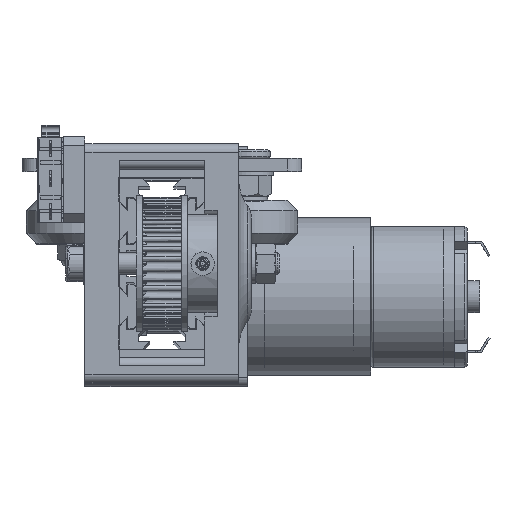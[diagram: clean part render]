
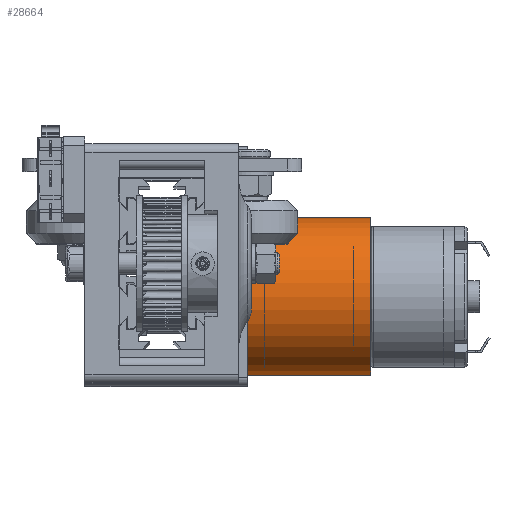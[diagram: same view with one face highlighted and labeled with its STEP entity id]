
A CAD part, top view. The second image highlights one B-rep face of the part: STEP entity #28664.
In plain terms, the highlighted cylindrical face has radius 18.5 mm (diameter 37 mm), a full revolution.
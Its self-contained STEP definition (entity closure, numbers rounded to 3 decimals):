
#1684=CYLINDRICAL_SURFACE('',#31457,18.5);
#2718=CIRCLE('',#31458,18.5);
#2719=CIRCLE('',#31459,18.5);
#3918=FACE_OUTER_BOUND('',#5622,.T.);
#5622=EDGE_LOOP('',(#21818,#21819,#21820,#21821));
#7751=LINE('',#44933,#10397);
#10397=VECTOR('',#36129,18.5);
#13070=VERTEX_POINT('',#44930);
#13071=VERTEX_POINT('',#44932);
#16279=EDGE_CURVE('',#13070,#13070,#2718,.T.);
#16280=EDGE_CURVE('',#13070,#13071,#7751,.T.);
#16281=EDGE_CURVE('',#13071,#13071,#2719,.T.);
#21818=ORIENTED_EDGE('',*,*,#16279,.F.);
#21819=ORIENTED_EDGE('',*,*,#16280,.T.);
#21820=ORIENTED_EDGE('',*,*,#16281,.T.);
#21821=ORIENTED_EDGE('',*,*,#16280,.F.);
#28664=ADVANCED_FACE('',(#3918),#1684,.T.);
#31457=AXIS2_PLACEMENT_3D('',#44929,#36125,#36126);
#31458=AXIS2_PLACEMENT_3D('',#44931,#36127,#36128);
#31459=AXIS2_PLACEMENT_3D('',#44934,#36130,#36131);
#36125=DIRECTION('center_axis',(0.,0.,1.));
#36126=DIRECTION('ref_axis',(1.,0.,0.));
#36127=DIRECTION('center_axis',(0.,0.,1.));
#36128=DIRECTION('ref_axis',(1.,0.,0.));
#36129=DIRECTION('',(0.,0.,-1.));
#36130=DIRECTION('center_axis',(0.,0.,1.));
#36131=DIRECTION('ref_axis',(1.,0.,0.));
#44929=CARTESIAN_POINT('Origin',(0.,0.,-29.));
#44930=CARTESIAN_POINT('',(-18.5,0.,0.));
#44931=CARTESIAN_POINT('Origin',(0.,0.,0.));
#44932=CARTESIAN_POINT('',(-18.5,0.,-29.));
#44933=CARTESIAN_POINT('',(-18.5,0.,-29.));
#44934=CARTESIAN_POINT('Origin',(0.,0.,-29.));
